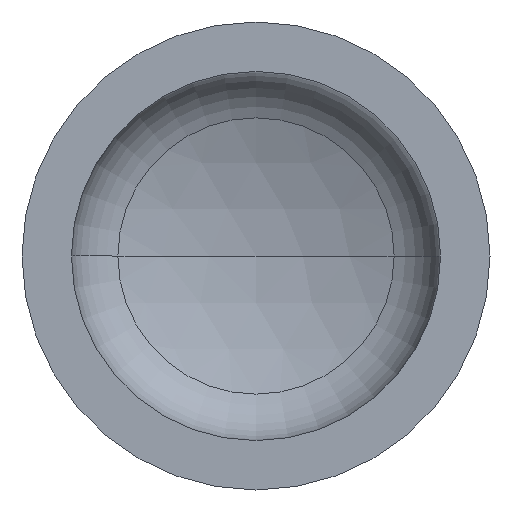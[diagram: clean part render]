
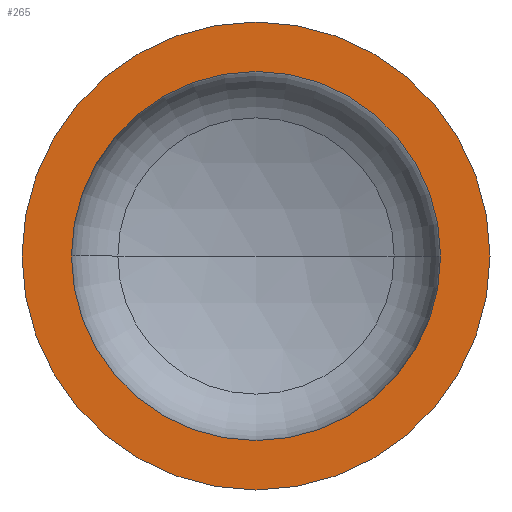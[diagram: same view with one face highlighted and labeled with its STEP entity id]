
A CAD part, front view. The second image highlights one B-rep face of the part: STEP entity #265.
In plain terms, the highlighted planar face has unit normal (0, -1, 0).
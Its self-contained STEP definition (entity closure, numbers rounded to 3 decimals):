
#5 = AXIS2_PLACEMENT_3D ( 'NONE', #84, #205, #368 ) ;
#16 = AXIS2_PLACEMENT_3D ( 'NONE', #103, #248, #78 ) ;
#25 = AXIS2_PLACEMENT_3D ( 'NONE', #54, #399, #398 ) ;
#36 = ORIENTED_EDGE ( 'NONE', *, *, #358, .F. ) ;
#54 = CARTESIAN_POINT ( 'NONE',  ( -350., 0., 0. ) ) ;
#63 = AXIS2_PLACEMENT_3D ( 'NONE', #341, #361, #359 ) ;
#64 = AXIS2_PLACEMENT_3D ( 'NONE', #193, #213, #214 ) ;
#77 = ORIENTED_EDGE ( 'NONE', *, *, #387, .T. ) ;
#78 = DIRECTION ( 'NONE',  ( 1., 0., 0. ) ) ;
#81 = EDGE_CURVE ( 'NONE', #235, #194, #281, .T. ) ;
#83 = EDGE_CURVE ( 'NONE', #139, #178, #397, .T. ) ;
#84 = CARTESIAN_POINT ( 'NONE',  ( 0., 0., 0. ) ) ;
#91 = EDGE_LOOP ( 'NONE', ( #169, #36 ) ) ;
#103 = CARTESIAN_POINT ( 'NONE',  ( 0., 0., 0. ) ) ;
#139 = VERTEX_POINT ( 'NONE', #301 ) ;
#144 = ORIENTED_EDGE ( 'NONE', *, *, #81, .T. ) ;
#169 = ORIENTED_EDGE ( 'NONE', *, *, #83, .F. ) ;
#175 = FACE_BOUND ( 'NONE', #91, .T. ) ;
#178 = VERTEX_POINT ( 'NONE', #383 ) ;
#187 = PLANE ( 'NONE',  #25 ) ;
#193 = CARTESIAN_POINT ( 'NONE',  ( 0., 0., 0. ) ) ;
#194 = VERTEX_POINT ( 'NONE', #404 ) ;
#205 = DIRECTION ( 'NONE',  ( 0., -1., 0. ) ) ;
#213 = DIRECTION ( 'NONE',  ( 0., -1., 0. ) ) ;
#214 = DIRECTION ( 'NONE',  ( 1., 0., 0. ) ) ;
#232 = CIRCLE ( 'NONE', #16, 276. ) ;
#235 = VERTEX_POINT ( 'NONE', #240 ) ;
#240 = CARTESIAN_POINT ( 'NONE',  ( -350., 0., 0. ) ) ;
#248 = DIRECTION ( 'NONE',  ( 0., -1., 0. ) ) ;
#265 = ADVANCED_FACE ( 'NONE', ( #175, #310 ), #187, .F. ) ;
#281 = CIRCLE ( 'NONE', #64, 350. ) ;
#298 = EDGE_LOOP ( 'NONE', ( #77, #144 ) ) ;
#301 = CARTESIAN_POINT ( 'NONE',  ( 276., 0., 0. ) ) ;
#310 = FACE_OUTER_BOUND ( 'NONE', #298, .T. ) ;
#341 = CARTESIAN_POINT ( 'NONE',  ( 0., 0., 0. ) ) ;
#358 = EDGE_CURVE ( 'NONE', #178, #139, #232, .T. ) ;
#359 = DIRECTION ( 'NONE',  ( 1., 0., 0. ) ) ;
#361 = DIRECTION ( 'NONE',  ( 0., -1., 0. ) ) ;
#368 = DIRECTION ( 'NONE',  ( 1., 0., 0. ) ) ;
#383 = CARTESIAN_POINT ( 'NONE',  ( -276., 0., 0. ) ) ;
#387 = EDGE_CURVE ( 'NONE', #194, #235, #394, .T. ) ;
#394 = CIRCLE ( 'NONE', #5, 350. ) ;
#397 = CIRCLE ( 'NONE', #63, 276. ) ;
#398 = DIRECTION ( 'NONE',  ( -1., 0., 0. ) ) ;
#399 = DIRECTION ( 'NONE',  ( 0., 1., 0. ) ) ;
#404 = CARTESIAN_POINT ( 'NONE',  ( 350., 0., 0. ) ) ;
